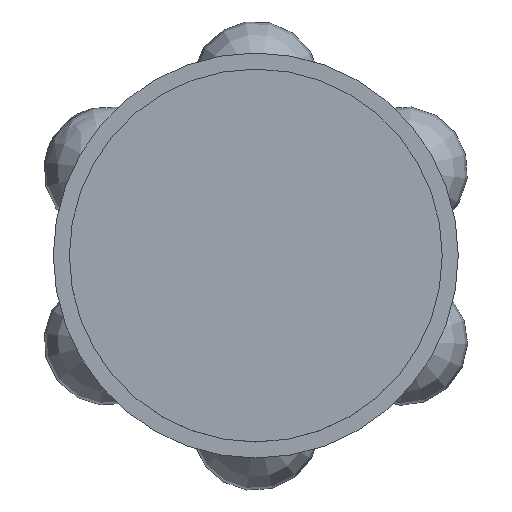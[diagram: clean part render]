
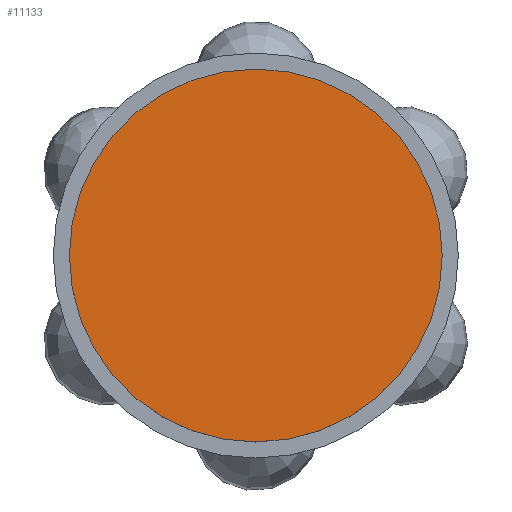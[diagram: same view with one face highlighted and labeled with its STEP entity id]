
A CAD part, top view. The second image highlights one B-rep face of the part: STEP entity #11133.
In plain terms, the highlighted planar face has unit normal (0, 0, 1).
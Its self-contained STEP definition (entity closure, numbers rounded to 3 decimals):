
#629=PLANE('',#11978);
#1098=FACE_OUTER_BOUND('',#1873,.T.);
#1873=EDGE_LOOP('',(#7571));
#3757=CIRCLE('',#11976,290.);
#4715=VERTEX_POINT('',#17574);
#5841=EDGE_CURVE('',#4715,#4715,#3757,.T.);
#7571=ORIENTED_EDGE('',*,*,#5841,.T.);
#11133=ADVANCED_FACE('',(#1098),#629,.T.);
#11976=AXIS2_PLACEMENT_3D('',#17575,#13729,#13730);
#11978=AXIS2_PLACEMENT_3D('',#17579,#13734,#13735);
#13729=DIRECTION('center_axis',(0.,0.,
1.));
#13730=DIRECTION('ref_axis',(1.,0.,0.));
#13734=DIRECTION('center_axis',(0.,0.,
1.));
#13735=DIRECTION('ref_axis',(1.,0.,0.));
#17574=CARTESIAN_POINT('',(-290.,0.,919.489));
#17575=CARTESIAN_POINT('Origin',(0.,0.,
919.489));
#17579=CARTESIAN_POINT('Origin',(0.,0.,
919.489));
